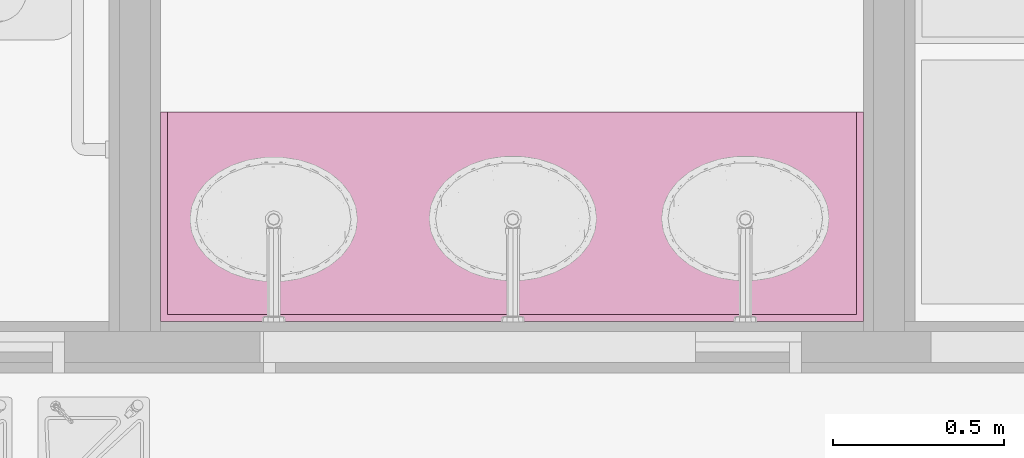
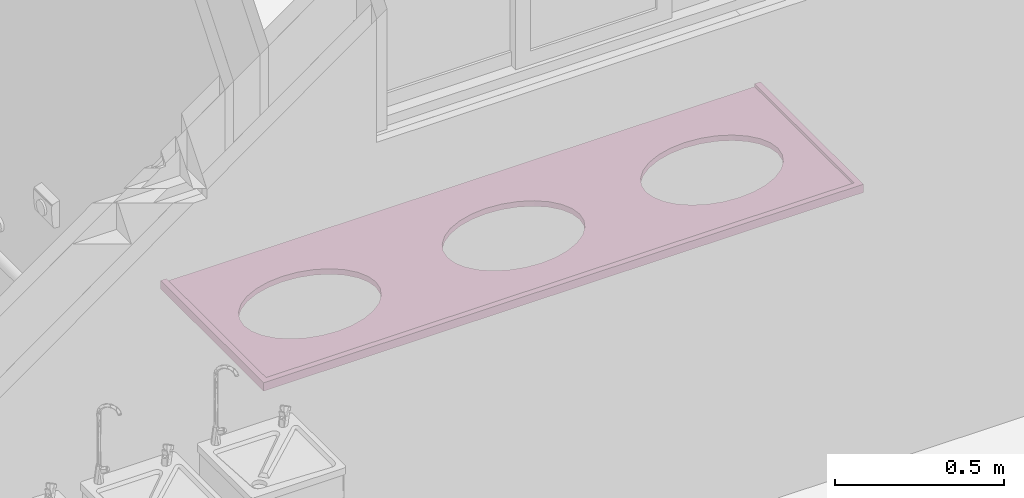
# One storey, part 92 of 155: 1 furnishing.
"""IFC2X3 building model written with IfcOpenShell, lengths in metres."""

from ifc_helpers import new_model, entity, si_unit, converted_unit, derived_unit, direction, frame, frame_2d, origin, origin_2d_with_axis, place, context, subcontext, project, spatial, polyline, rectangle, outline, extrude, source, transform, mapped, type_object, type_shapes, element, save


model = new_model("IFC2X3")

# Units and contexts
model_context = context("Model", 3, precision=1e-05, world=origin(), true_north=direction((6.12303176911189e-17, 1.0)))
body_context = subcontext(model_context, "Body", "Model", "MODEL_VIEW")
ifc_project = project(units=[si_unit("LENGTHUNIT", "METRE"), si_unit("AREAUNIT", "SQUARE_METRE"), si_unit("VOLUMEUNIT", "CUBIC_METRE"), converted_unit("PLANEANGLEUNIT", "DEGREE", entity("IfcRatioMeasure", 0.0174532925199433), si_unit("PLANEANGLEUNIT", "RADIAN"), dimensions=[0, 0, 0, 0, 0, 0, 0]), si_unit("MASSUNIT", "GRAM", prefix="KILO"), derived_unit("MASSDENSITYUNIT", [(si_unit("MASSUNIT", "GRAM", prefix="KILO"), 1), (si_unit("LENGTHUNIT", "METRE"), -3)]), si_unit("TIMEUNIT", "SECOND"), si_unit("FREQUENCYUNIT", "HERTZ"), si_unit("THERMODYNAMICTEMPERATUREUNIT", "DEGREE_CELSIUS"), derived_unit("THERMALTRANSMITTANCEUNIT", [(si_unit("MASSUNIT", "GRAM", prefix="KILO"), 1), (si_unit("THERMODYNAMICTEMPERATUREUNIT", "KELVIN"), -1), (si_unit("TIMEUNIT", "SECOND"), -3)]), derived_unit("VOLUMETRICFLOWRATEUNIT", [(si_unit("LENGTHUNIT", "METRE"), 3), (si_unit("TIMEUNIT", "SECOND"), -1)]), si_unit("ELECTRICCURRENTUNIT", "AMPERE"), si_unit("ELECTRICVOLTAGEUNIT", "VOLT"), si_unit("POWERUNIT", "WATT"), si_unit("FORCEUNIT", "NEWTON", prefix="KILO"), si_unit("ILLUMINANCEUNIT", "LUX"), si_unit("LUMINOUSFLUXUNIT", "LUMEN"), si_unit("LUMINOUSINTENSITYUNIT", "CANDELA"), derived_unit("USERDEFINED", [(si_unit("MASSUNIT", "GRAM", prefix="KILO"), -1), (si_unit("LENGTHUNIT", "METRE"), -2), (si_unit("TIMEUNIT", "SECOND"), 3), (si_unit("LUMINOUSFLUXUNIT", "LUMEN"), 1)]), derived_unit("LINEARVELOCITYUNIT", [(si_unit("LENGTHUNIT", "METRE"), 1), (si_unit("TIMEUNIT", "SECOND"), -1)]), si_unit("PRESSUREUNIT", "PASCAL"), derived_unit("USERDEFINED", [(si_unit("LENGTHUNIT", "METRE"), -2), (si_unit("MASSUNIT", "GRAM", prefix="KILO"), 1), (si_unit("TIMEUNIT", "SECOND"), -2)])], contexts=[model_context])

# Site, building, storey, space
site_placement = place(None, frame((26.9889013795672, -17.5624287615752, 0.0)))
site = spatial("IfcSite", under=ifc_project, at=site_placement, Name="Default", CompositionType="ELEMENT")
building_placement = place(site_placement, origin())
building = spatial("IfcBuilding", under=site, at=building_placement, Name="C. C. L. Monsenhor Antônio Sampaio", CompositionType="ELEMENT")
storey_placement = place(building_placement, frame((0.0, 0.0, 1.19999999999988)))
storey = spatial("IfcBuildingStorey", under=building, at=storey_placement, Name="Nível 1.2", CompositionType="ELEMENT", Elevation=1.19999999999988)
space_placement = place(storey_placement, origin())
space = spatial("IfcSpace", under=storey, at=space_placement, Name="93", CompositionType="ELEMENT", InteriorOrExteriorSpace="INTERNAL")

# Furnishing
furniture_type = type_object("IfcFurnitureType", Name="Bancada_L_60x265")
shared_shape = source(origin(), body_context, "Body", "SweptSolid", [
    extrude(outline(polyline([(-1.02499731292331, -0.305000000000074), (1.02499731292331, -0.305000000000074), (1.02499731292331, 0.305000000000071), (-1.02499731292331, 0.305000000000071), (-1.02499731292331, -0.305000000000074)]), holes=[polyline([(0.920452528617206, 0.0074999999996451), (0.915157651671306, -0.0274403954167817), (0.899310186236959, -0.0611486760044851), (0.873185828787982, -0.0921070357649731), (0.837750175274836, -0.118499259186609), (0.794682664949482, -0.13865855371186), (0.746229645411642, -0.151290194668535), (0.69499731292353, -0.155591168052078), (0.643764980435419, -0.151290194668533), (0.59531196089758, -0.13865855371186), (0.552244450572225, -0.118499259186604), (0.516808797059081, -0.0921070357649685), (0.490684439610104, -0.0611486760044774), (0.474836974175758, -0.0274403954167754), (0.46954209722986, 0.00749999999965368), (0.474836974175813, 0.0424403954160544), (0.490684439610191, 0.0761486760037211), (0.516808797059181, 0.107107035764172), (0.552244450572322, 0.133499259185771), (0.595311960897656, 0.153658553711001), (0.643764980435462, 0.166290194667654), (0.694997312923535, 0.170591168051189), (0.746229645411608, 0.166290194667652), (0.794682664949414, 0.153658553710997), (0.837750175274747, 0.13349925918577), (0.873185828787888, 0.10710703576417), (0.899310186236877, 0.0761486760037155), (0.915157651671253, 0.0424403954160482), (0.920452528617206, 0.0074999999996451)]), polyline([(-0.227957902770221, 0.00491835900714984), (-0.222663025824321, 0.0398587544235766), (-0.206815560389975, 0.0735670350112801), (-0.180691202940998, 0.10452539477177), (-0.145255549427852, 0.130917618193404), (-0.102188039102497, 0.151076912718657), (-0.0537350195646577, 0.16370855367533), (-0.00250268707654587, 0.168009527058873), (0.0487296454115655, 0.16370855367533), (0.0971826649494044, 0.151076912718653), (0.140250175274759, 0.130917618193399), (0.175685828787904, 0.104525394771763), (0.201810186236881, 0.0735670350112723), (0.217657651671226, 0.0398587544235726), (0.222952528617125, 0.00491835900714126), (0.217657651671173, -0.0300220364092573), (0.201810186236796, -0.063730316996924), (0.175685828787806, -0.0946886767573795), (0.140250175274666, -0.121080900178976), (0.0971826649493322, -0.141240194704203), (0.0487296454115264, -0.153871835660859), (-0.00250268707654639, -0.158172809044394), (-0.0537350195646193, -0.15387183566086), (-0.102188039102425, -0.141240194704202), (-0.145255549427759, -0.121080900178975), (-0.1806912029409, -0.0946886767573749), (-0.20681556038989, -0.0637303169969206), (-0.222663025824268, -0.0300220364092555), (-0.227957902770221, 0.00491835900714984)]), polyline([(-0.906049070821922, 0.0049183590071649), (-0.900754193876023, 0.0398587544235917), (-0.884906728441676, 0.0735670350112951), (-0.858782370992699, 0.104525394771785), (-0.823346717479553, 0.130917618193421), (-0.780279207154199, 0.151076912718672), (-0.73182618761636, 0.163708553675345), (-0.680593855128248, 0.168009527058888), (-0.629361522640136, 0.163708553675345), (-0.580908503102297, 0.15107691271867), (-0.537840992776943, 0.130917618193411), (-0.502405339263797, 0.104525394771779), (-0.476280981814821, 0.0735670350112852), (-0.460433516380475, 0.0398587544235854), (-0.455138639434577, 0.00491835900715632), (-0.460433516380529, -0.0300220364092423), (-0.476280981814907, -0.0637303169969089), (-0.502405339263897, -0.0946886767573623), (-0.537840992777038, -0.121080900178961), (-0.580908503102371, -0.141240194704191), (-0.629361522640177, -0.153871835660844), (-0.68059385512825, -0.158172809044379), (-0.731826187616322, -0.153871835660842), (-0.780279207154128, -0.141240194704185), (-0.823346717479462, -0.12108090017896), (-0.858782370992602, -0.0946886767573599), (-0.884906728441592, -0.0637303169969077), (-0.90075419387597, -0.0300220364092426), (-0.906049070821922, 0.0049183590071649)])]), frame((-1.44554960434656, -16.4480663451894, 2.07999999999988), z_axis=(0.0, 0.0, 1.0), x_axis=(-1.0, 0.0, 0.0)), (0.0, 0.0, 1.0), 0.0200000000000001),
    extrude(rectangle(XDim=2.04999462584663, YDim=0.0199999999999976, at=frame_2d((0.0, 1.08333481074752e-15), x_axis=(1.0, 0.0))), frame((-1.44554960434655, -16.7430663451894, 2.09999999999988), z_axis=(0.0, 0.0, 1.0), x_axis=(-1.0, 0.0, 0.0)), (0.0, 0.0, 1.0), 0.00999999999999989),
    extrude(rectangle(XDim=0.590000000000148, YDim=0.0199999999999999, at=origin_2d_with_axis()), frame((-0.430552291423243, -16.4380663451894, 2.09999999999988), z_axis=(0.0, 0.0, 1.0), x_axis=(0.0, -1.0, 0.0)), (0.0, 0.0, 1.0), 0.00999999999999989),
    extrude(rectangle(XDim=0.590000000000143, YDim=0.0200000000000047, at=origin_2d_with_axis()), frame((-2.46054691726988, -16.4380663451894, 2.09999999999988), z_axis=(0.0, 0.0, 1.0), x_axis=(0.0, -1.0, 0.0)), (0.0, 0.0, 1.0), 0.00999999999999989),
])
type_shapes(furniture_type, [shared_shape])
furnishing_placement = place(space_placement, frame((0.0, 0.0, -1.19999999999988)))
element("IfcFurnishingElement", 1, at=furnishing_placement, inside=space, type_object=furniture_type, Name="Bancada1:Bancada_L_60x265", ObjectType="Bancada_L_60x265", context=body_context, shape_type="MappedRepresentation", body=[
    mapped(shared_shape, transform((0.0, 0.0, 0.0), scale=1.0)),
])

save(model, "model.ifc")
